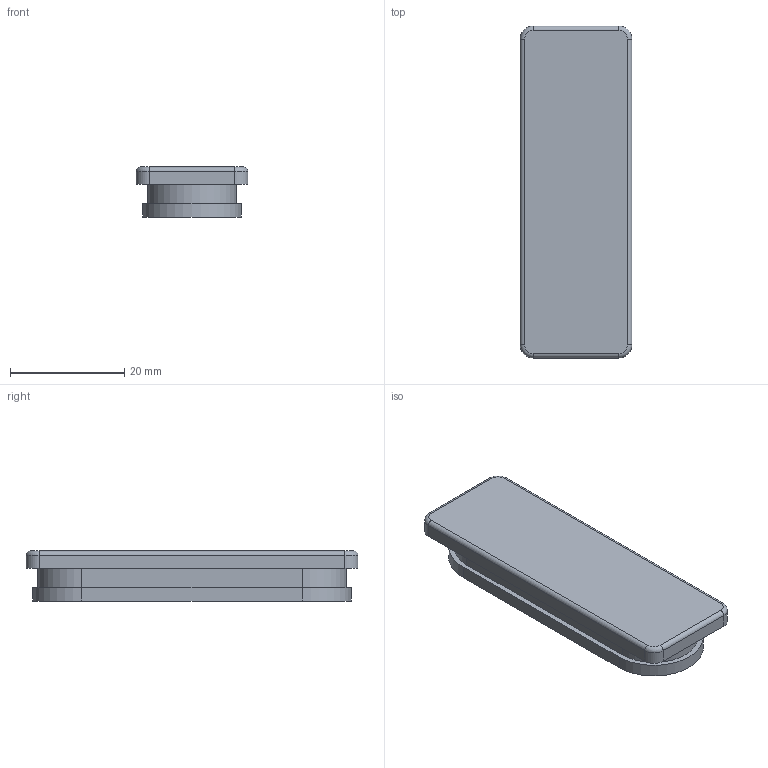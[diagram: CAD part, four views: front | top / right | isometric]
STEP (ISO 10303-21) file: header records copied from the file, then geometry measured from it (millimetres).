
FILE_DESCRIPTION (( 'STEP AP203' ), '1' );
FILE_NAME ('410113179_CM.STEP', '2015-04-07T19:48:18', ( 'VPC' ), ( 'Virginia Panel Corporation' ), 'SwSTEP 2.0', 'SolidWorks 2015', '' );
FILE_SCHEMA (( 'CONFIG_CONTROL_DESIGN' ));
Length unit declared in the file: inch
Products named in the file (1): 410113179_CM
Bounding box: 19.56 x 58.17 x 8.76 mm (x, y, z)
Volume: 3711.6 mm3; surface area: 4449.1 mm2
Topology: 1 solids, 1 shells, 37 faces, 84 edges, 52 vertices
Faces by surface type: cylinder 16, plane 15, torus 6
Entity records: 1119 total; most frequent: DIRECTION 198, CARTESIAN_POINT 174, ORIENTED_EDGE 168, EDGE_CURVE 84, AXIS2_PLACEMENT_3D 76, VERTEX_POINT 52, VECTOR 46, LINE 46
